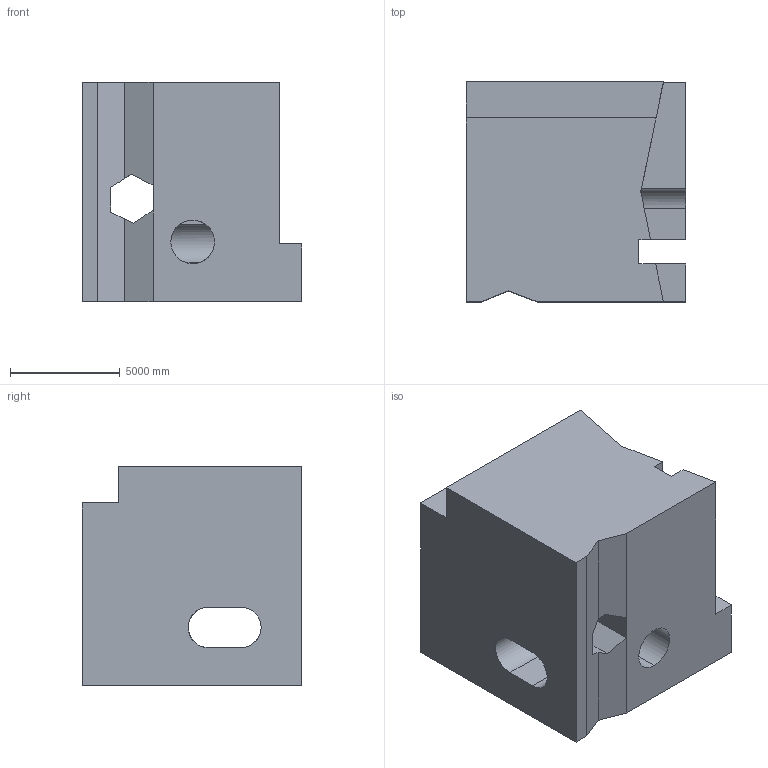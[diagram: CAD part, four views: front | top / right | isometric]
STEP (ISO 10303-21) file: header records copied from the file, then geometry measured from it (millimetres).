
FILE_DESCRIPTION (( 'STEP AP203' ), '1' );
FILE_NAME ('1777.STEP', '2022-08-19T12:48:03', ( 'user' ), ( '' ), 'SwSTEP 2.0', 'SolidWorks 2021', '' );
FILE_SCHEMA (( 'CONFIG_CONTROL_DESIGN' ));
Length unit declared in the file: centimetre
Products named in the file (1): 1777
Bounding box: 10000 x 10000 x 10000 mm (x, y, z)
Volume: 755189107063.2 mm3; surface area: 740392748.2 mm2
Topology: 1 solids, 1 shells, 44 faces, 142 edges, 94 vertices
Faces by surface type: plane 39, cylinder 5
Entity records: 2128 total; most frequent: CARTESIAN_POINT 807, ORIENTED_EDGE 284, DIRECTION 229, EDGE_CURVE 142, LINE 117, VECTOR 117, VERTEX_POINT 94, AXIS2_PLACEMENT_3D 56
